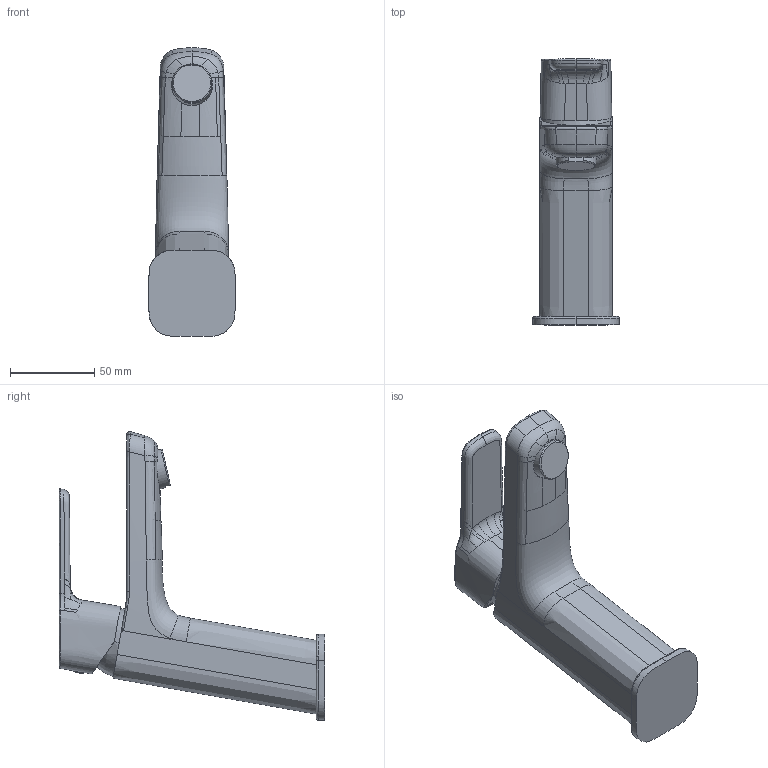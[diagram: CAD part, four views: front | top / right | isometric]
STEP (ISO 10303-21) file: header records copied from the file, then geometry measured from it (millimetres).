
FILE_DESCRIPTION((''),'2;1');
FILE_NAME('12_411_052_XXX','2018-07-19T',('ES997'),(''),'CREO PARAMETRIC BY PTC INC, 2016260','CREO PARAMETRIC BY PTC INC, 2016260','');
FILE_SCHEMA(('CONFIG_CONTROL_DESIGN'));
Length unit declared in the file: millimetre
Products named in the file (1): 12_411_052_XXX
Bounding box: 51.31 x 158 x 171.76 mm (x, y, z)
Volume: 365285.4 mm3; surface area: 47229.9 mm2
Topology: 1 solids, 1 shells, 148 faces, 375 edges, 233 vertices
Faces by surface type: bspline 89, cylinder 19, plane 18, extrusion 13, cone 5, torus 2, sphere 2
Entity records: 21144 total; most frequent: CARTESIAN_POINT 18347, ORIENTED_EDGE 748, EDGE_CURVE 374, B_SPLINE_CURVE_WITH_KNOTS 278, DIRECTION 263, VERTEX_POINT 233, EDGE_LOOP 153, FACE_OUTER_BOUND 148
